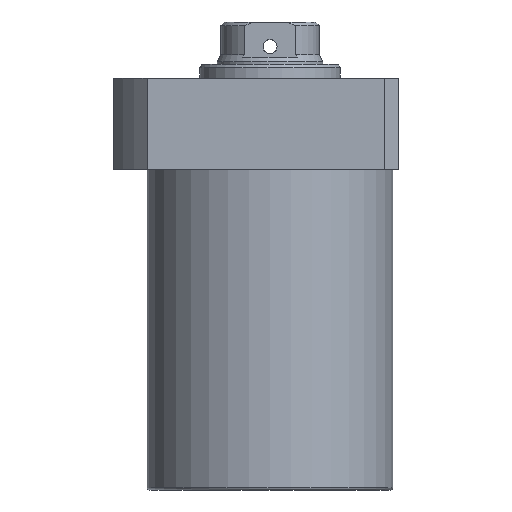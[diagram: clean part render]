
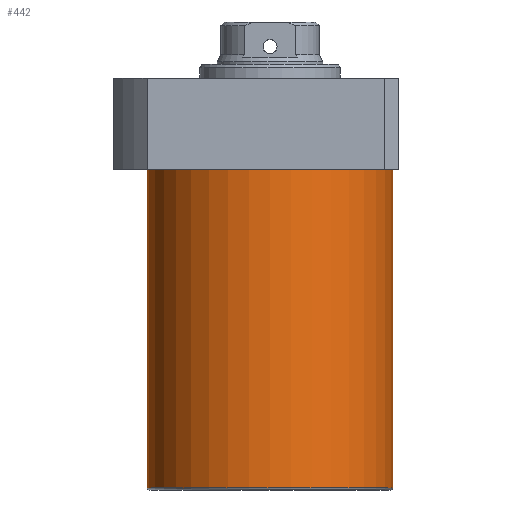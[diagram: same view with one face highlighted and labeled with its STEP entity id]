
A CAD part, front view. The second image highlights one B-rep face of the part: STEP entity #442.
In plain terms, the highlighted cylindrical face has radius 52.5 mm (diameter 105 mm), a partial arc.
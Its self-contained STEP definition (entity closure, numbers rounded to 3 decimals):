
#8 = CARTESIAN_POINT ( 'NONE',  ( 0., 0., -19.5 ) ) ;
#46 = DIRECTION ( 'NONE',  ( 0., 0., 1. ) ) ;
#66 = CYLINDRICAL_SURFACE ( 'NONE', #1999, 52.5 ) ;
#119 = CARTESIAN_POINT ( 'NONE',  ( -52.5, 0., -19.5 ) ) ;
#216 = AXIS2_PLACEMENT_3D ( 'NONE', #8, #541, #1228 ) ;
#259 = VECTOR ( 'NONE', #731, 1000. ) ;
#285 = VERTEX_POINT ( 'NONE', #119 ) ;
#302 = ORIENTED_EDGE ( 'NONE', *, *, #1667, .F. ) ;
#315 = VERTEX_POINT ( 'NONE', #1506 ) ;
#340 = CARTESIAN_POINT ( 'NONE',  ( 0., 0., -156.5 ) ) ;
#387 = CARTESIAN_POINT ( 'NONE',  ( 52.5, 0., -19.5 ) ) ;
#389 = DIRECTION ( 'NONE',  ( 1., 0., 0. ) ) ;
#393 = VECTOR ( 'NONE', #46, 1000. ) ;
#401 = ORIENTED_EDGE ( 'NONE', *, *, #1217, .T. ) ;
#442 = ADVANCED_FACE ( 'NONE', ( #2213 ), #66, .T. ) ;
#541 = DIRECTION ( 'NONE',  ( 0., 0., -1. ) ) ;
#573 = AXIS2_PLACEMENT_3D ( 'NONE', #1915, #905, #2088 ) ;
#731 = DIRECTION ( 'NONE',  ( 0., 0., 1. ) ) ;
#771 = CIRCLE ( 'NONE', #216, 52.5 ) ;
#905 = DIRECTION ( 'NONE',  ( 0., 0., 1. ) ) ;
#912 = CARTESIAN_POINT ( 'NONE',  ( -52.5, 0., -156.5 ) ) ;
#935 = EDGE_CURVE ( 'NONE', #1889, #315, #1510, .T. ) ;
#1038 = ORIENTED_EDGE ( 'NONE', *, *, #935, .T. ) ;
#1091 = CARTESIAN_POINT ( 'NONE',  ( 52.5, 0., -156.5 ) ) ;
#1217 = EDGE_CURVE ( 'NONE', #1653, #285, #771, .T. ) ;
#1228 = DIRECTION ( 'NONE',  ( 1., 0., 0. ) ) ;
#1308 = EDGE_LOOP ( 'NONE', ( #302, #1038, #2051, #401 ) ) ;
#1374 = EDGE_CURVE ( 'NONE', #315, #1653, #2204, .T. ) ;
#1506 = CARTESIAN_POINT ( 'NONE',  ( 52.5, 0., -155.5 ) ) ;
#1510 = CIRCLE ( 'NONE', #573, 52.5 ) ;
#1533 = DIRECTION ( 'NONE',  ( 0., 0., 1. ) ) ;
#1616 = LINE ( 'NONE', #912, #259 ) ;
#1653 = VERTEX_POINT ( 'NONE', #387 ) ;
#1667 = EDGE_CURVE ( 'NONE', #1889, #285, #1616, .T. ) ;
#1807 = CARTESIAN_POINT ( 'NONE',  ( -52.5, 0., -155.5 ) ) ;
#1889 = VERTEX_POINT ( 'NONE', #1807 ) ;
#1915 = CARTESIAN_POINT ( 'NONE',  ( 0., 0., -155.5 ) ) ;
#1999 = AXIS2_PLACEMENT_3D ( 'NONE', #340, #1533, #389 ) ;
#2051 = ORIENTED_EDGE ( 'NONE', *, *, #1374, .T. ) ;
#2088 = DIRECTION ( 'NONE',  ( -1., 0., 0. ) ) ;
#2204 = LINE ( 'NONE', #1091, #393 ) ;
#2213 = FACE_OUTER_BOUND ( 'NONE', #1308, .T. ) ;
